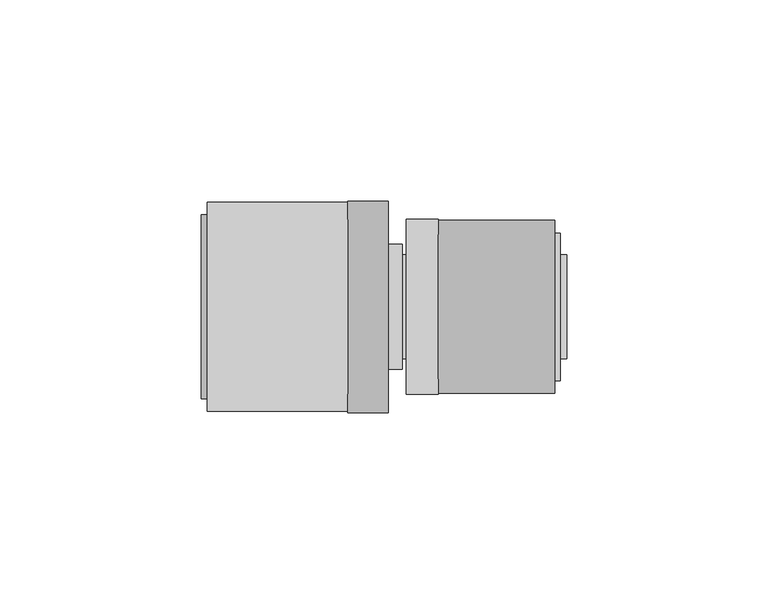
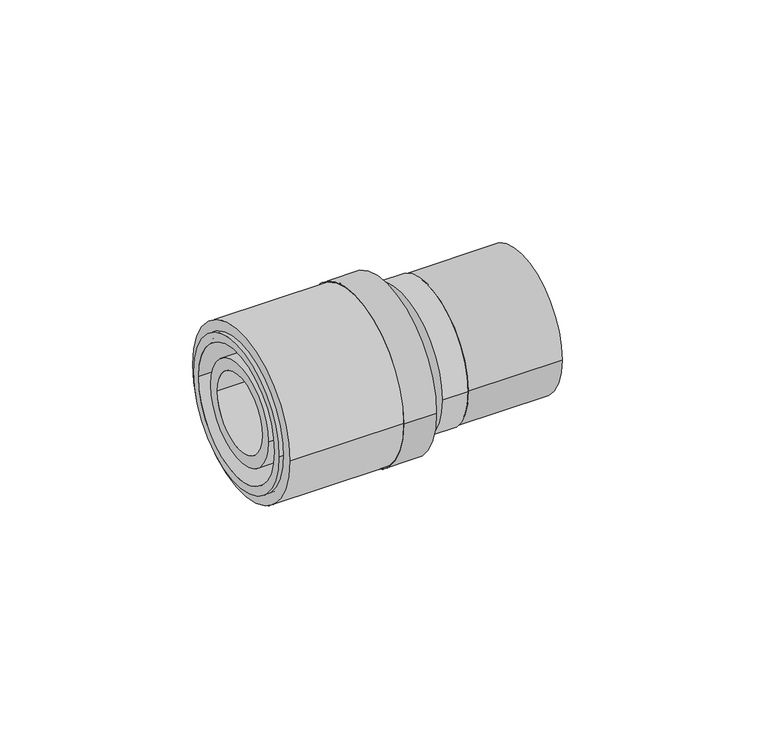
"""IFC4 building model written with IfcOpenShell, lengths in millimetres: pipe fitting geometry, FASTLOC_Coupling reduced LX : FSL C LX CZ."""

from ifc_helpers import new_model, si_unit, point, frame, origin, origin_2d, place, context, project, spatial, polyline, circle_curve, trimmed, segment, composite_curve, outline, extrude, source, transform, mapped, element, save
from ifc_brep_helpers import plane_surface, cylinder_surface, revolved_surface, advanced_brep


def pipe_fitting_14a26f43(model_context):
    return source(origin(), model_context, "Body", "SolidModel", [
        extrude(outline(composite_curve([segment(trimmed(circle_curve(origin_2d(), 21.5), [point((-21.5, 0.0))], [point((21.5, 0.0))], False, "CARTESIAN"), True, "CONTINUOUS"), segment(trimmed(circle_curve(origin_2d(), 21.5), [point((21.5, 0.0))], [point((-21.5, 0.0))], False, "CARTESIAN"), True, "CONTINUOUS")], self_intersect=False), holes=[composite_curve([segment(trimmed(circle_curve(origin_2d(), 16.85), [point((-16.85, 0.0))], [point((16.85, 0.0))], True, "CARTESIAN"), True, "CONTINUOUS"), segment(trimmed(circle_curve(origin_2d(), 16.85), [point((16.85, 0.0))], [point((-16.85, 0.0))], True, "CARTESIAN"), True, "CONTINUOUS")], self_intersect=False)]), frame((10.9, 0.0, 0.0), z_axis=(1.0, 0.0, 0.0), x_axis=(0.0, 1.0, 0.0)), (0.0, 0.0, 1.0), 29.0),
        advanced_brep(
        [(10.9, 21.8, 0.0), (10.9, -21.8, 0.0), (2.9, -21.8, 0.0), (2.9, 21.8, 0.0), (41.2, 18.35, 0.0), (41.2, -18.35, 0.0), (10.9, -18.35, 0.0), (10.9, 18.35, 0.0), (2.9, 16.2, 0.0), (2.9, -16.2, 0.0), (41.2, -16.2, 0.0), (41.2, 16.2, 0.0)],
        [
            (0, 1, circle_curve(frame((10.9, 0.0, 0.0), z_axis=(-1.0, 0.0, 0.0), x_axis=(0.0, -1.0, 0.0)), 21.8)),
            (1, 2),
            (2, 3, circle_curve(frame((2.9, 0.0, 0.0), z_axis=(1.0, 0.0, 0.0), x_axis=(0.0, -1.0, 0.0)), 21.8)),
            (3, 0),
            (4, 5, circle_curve(frame((41.2, 0.0, 0.0), z_axis=(-1.0, 0.0, 0.0), x_axis=(0.0, -1.0, 0.0)), 18.35)),
            (5, 6),
            (6, 7, circle_curve(frame((10.9, 0.0, 0.0), z_axis=(1.0, 0.0, 0.0), x_axis=(0.0, -1.0, 0.0)), 18.35)),
            (7, 4),
            (8, 9, circle_curve(frame((2.9, 0.0, 0.0), z_axis=(-1.0, 0.0, 0.0), x_axis=(0.0, -1.0, 0.0)), 16.2)),
            (9, 10),
            (10, 11, circle_curve(frame((41.2, 0.0, 0.0), z_axis=(1.0, 0.0, 0.0), x_axis=(0.0, -1.0, 0.0)), 16.2)),
            (11, 8),
            (1, 0, circle_curve(frame((10.9, 0.0, 0.0), z_axis=(-1.0, 0.0, 0.0), x_axis=(0.0, 1.0, 0.0)), 21.8)),
            (3, 2, circle_curve(frame((2.9, 0.0, 0.0), z_axis=(1.0, 0.0, 0.0), x_axis=(0.0, 1.0, 0.0)), 21.8)),
            (6, 7, circle_curve(frame((10.9, 0.0, 0.0), z_axis=(-1.0, 0.0, 0.0), x_axis=(0.0, 1.0, 0.0)), 18.35)),
            (5, 4, circle_curve(frame((41.2, 0.0, 0.0), z_axis=(-1.0, 0.0, 0.0), x_axis=(0.0, 1.0, 0.0)), 18.35)),
            (10, 11, circle_curve(frame((41.2, 0.0, 0.0), z_axis=(-1.0, 0.0, 0.0), x_axis=(0.0, 1.0, 0.0)), 16.2)),
            (9, 8, circle_curve(frame((2.9, 0.0, 0.0), z_axis=(-1.0, 0.0, 0.0), x_axis=(0.0, 1.0, 0.0)), 16.2)),
        ],
        [
            cylinder_surface(frame((2.9, 0.0, 0.0), z_axis=(1.0, 0.0, 0.0), x_axis=(0.0, -1.0, 0.0)), 21.8),
            cylinder_surface(frame((2.9, 0.0, 0.0), z_axis=(1.0, 0.0, 0.0), x_axis=(0.0, -1.0, 0.0)), 18.35),
            revolved_surface(polyline([(41.2, -16.2, 0.0), (2.9, -16.2, 0.0)]), (2.9, 0.0, 0.0), (1.0, 0.0, 0.0)),
            cylinder_surface(frame((2.9, 0.0, 0.0), z_axis=(1.0, 0.0, 0.0), x_axis=(0.0, 1.0, 0.0)), 21.8),
            plane_surface(frame((10.9, 0.0, 0.0), z_axis=(1.0, 0.0, 0.0), x_axis=(0.0, 1.0, 0.0))),
            cylinder_surface(frame((2.9, 0.0, 0.0), z_axis=(1.0, 0.0, 0.0), x_axis=(0.0, 1.0, 0.0)), 18.35),
            plane_surface(frame((41.2, 0.0, 0.0), z_axis=(1.0, 0.0, 0.0), x_axis=(0.0, 1.0, 0.0))),
            revolved_surface(polyline([(41.2, 16.2, 0.0), (2.9, 16.2, 0.0)]), (2.9, 0.0, 0.0), (1.0, 0.0, 0.0)),
            plane_surface(frame((2.9, 0.0, 0.0), z_axis=(-1.0, 0.0, 0.0), x_axis=(0.0, 1.0, 0.0))),
        ],
        [
            (0, [[1, 2, 3, 4]]),
            (1, [[5, 6, 7, 8]]),
            (2, [[9, 10, 11, 12]]),
            (3, [[13, -4, 14, -2]]),
            (4, [[-13, -1], [15, -7]]),
            (5, [[16, -8, -15, -6]]),
            (6, [[-16, -5], [17, -11]]),
            (7, [[18, -12, -17, -10]]),
            (8, [[-14, -3], [-18, -9]]),
        ],
    ),
        extrude(outline(composite_curve([segment(trimmed(circle_curve(origin_2d(), 26.0), [point((26.0, 0.0))], [point((-26.0, 0.0))], False, "CARTESIAN"), True, "CONTINUOUS"), segment(trimmed(circle_curve(origin_2d(), 26.0), [point((-26.0, 0.0))], [point((26.0, 0.0))], False, "CARTESIAN"), True, "CONTINUOUS")], self_intersect=False), holes=[composite_curve([segment(trimmed(circle_curve(origin_2d(), 21.25), [point((21.25, 0.0))], [point((-21.25, 0.0))], True, "CARTESIAN"), True, "CONTINUOUS"), segment(trimmed(circle_curve(origin_2d(), 21.25), [point((-21.25, 0.0))], [point((21.25, 0.0))], True, "CARTESIAN"), True, "CONTINUOUS")], self_intersect=False)]), frame((-46.6, 0.0, 0.0), z_axis=(1.0, 0.0, 0.0), x_axis=(0.0, 1.0, 0.0)), (0.0, 0.0, 1.0), 35.0),
        advanced_brep(
        [(-11.6, -26.3, 0.0), (-11.6, 26.3, 0.0), (-1.6, 26.3, 0.0), (-1.6, -26.3, 0.0), (-48.1, -22.9, 0.0), (-48.1, 22.9, 0.0), (-11.6, 22.9, 0.0), (-11.6, -22.9, 0.0), (-1.6, -20.2, 0.0), (-1.6, 20.2, 0.0), (-48.1, 20.2, 0.0), (-48.1, -20.2, 0.0)],
        [
            (0, 1, circle_curve(frame((-11.6, 0.0, 0.0), z_axis=(1.0, 0.0, 0.0), x_axis=(0.0, 1.0, 0.0)), 26.3)),
            (1, 2),
            (2, 3, circle_curve(frame((-1.6, 0.0, 0.0), z_axis=(-1.0, 0.0, 0.0), x_axis=(0.0, 1.0, 0.0)), 26.3)),
            (3, 0),
            (4, 5, circle_curve(frame((-48.1, 0.0, 0.0), z_axis=(1.0, 0.0, 0.0), x_axis=(0.0, 1.0, 0.0)), 22.9)),
            (5, 6),
            (6, 7, circle_curve(frame((-11.6, 0.0, 0.0), z_axis=(-1.0, 0.0, 0.0), x_axis=(0.0, 1.0, 0.0)), 22.9)),
            (7, 4),
            (8, 9, circle_curve(frame((-1.6, 0.0, 0.0), z_axis=(1.0, 0.0, 0.0), x_axis=(0.0, 1.0, 0.0)), 20.2)),
            (9, 10),
            (10, 11, circle_curve(frame((-48.1, 0.0, 0.0), z_axis=(-1.0, 0.0, 0.0), x_axis=(0.0, 1.0, 0.0)), 20.2)),
            (11, 8),
            (1, 0, circle_curve(frame((-11.6, 0.0, 0.0), z_axis=(1.0, 0.0, 0.0), x_axis=(0.0, -1.0, 0.0)), 26.3)),
            (3, 2, circle_curve(frame((-1.6, 0.0, 0.0), z_axis=(-1.0, 0.0, 0.0), x_axis=(0.0, -1.0, 0.0)), 26.3)),
            (6, 7, circle_curve(frame((-11.6, 0.0, 0.0), z_axis=(1.0, 0.0, 0.0), x_axis=(0.0, -1.0, 0.0)), 22.9)),
            (5, 4, circle_curve(frame((-48.1, 0.0, 0.0), z_axis=(1.0, 0.0, 0.0), x_axis=(0.0, -1.0, 0.0)), 22.9)),
            (10, 11, circle_curve(frame((-48.1, 0.0, 0.0), z_axis=(1.0, 0.0, 0.0), x_axis=(0.0, -1.0, 0.0)), 20.2)),
            (9, 8, circle_curve(frame((-1.6, 0.0, 0.0), z_axis=(1.0, 0.0, 0.0), x_axis=(0.0, -1.0, 0.0)), 20.2)),
        ],
        [
            cylinder_surface(frame((-1.6, 0.0, 0.0), z_axis=(-1.0, 0.0, 0.0), x_axis=(0.0, 1.0, 0.0)), 26.3),
            cylinder_surface(frame((-1.6, 0.0, 0.0), z_axis=(-1.0, 0.0, 0.0), x_axis=(0.0, 1.0, 0.0)), 22.9),
            revolved_surface(polyline([(-48.1, 20.2, 0.0), (-1.6, 20.2, 0.0)]), (-1.6, 0.0, 0.0), (-1.0, 0.0, 0.0)),
            cylinder_surface(frame((-1.6, 0.0, 0.0), z_axis=(-1.0, 0.0, 0.0), x_axis=(0.0, -1.0, 0.0)), 26.3),
            plane_surface(frame((-11.6, 0.0, 0.0), z_axis=(-1.0, 0.0, 0.0), x_axis=(0.0, -1.0, 0.0))),
            cylinder_surface(frame((-1.6, 0.0, 0.0), z_axis=(-1.0, 0.0, 0.0), x_axis=(0.0, -1.0, 0.0)), 22.9),
            plane_surface(frame((-48.1, 0.0, 0.0), z_axis=(-1.0, 0.0, 0.0), x_axis=(0.0, -1.0, 0.0))),
            revolved_surface(polyline([(-48.1, -20.2, 0.0), (-1.6, -20.2, 0.0)]), (-1.6, 0.0, 0.0), (-1.0, 0.0, 0.0)),
            plane_surface(frame((-1.6, 0.0, 0.0), z_axis=(1.0, 0.0, 0.0), x_axis=(0.0, -1.0, 0.0))),
        ],
        [
            (0, [[1, 2, 3, 4]]),
            (1, [[5, 6, 7, 8]]),
            (2, [[9, 10, 11, 12]]),
            (3, [[13, -4, 14, -2]]),
            (4, [[-13, -1], [15, -7]]),
            (5, [[16, -8, -15, -6]]),
            (6, [[-16, -5], [17, -11]]),
            (7, [[18, -12, -17, -10]]),
            (8, [[-14, -3], [-18, -9]]),
        ],
    ),
        advanced_brep(
        [(-1.5, 15.545, 0.0), (-1.5, -15.545, 0.0), (-7.9, -15.545, 0.0), (-7.9, 15.545, 0.0), (-7.9, 17.2, 0.0), (-7.9, -17.2, 0.0), (-11.6, -17.2, 0.0), (-11.6, 17.2, 0.0), (-11.6, 15.545, 0.0), (-11.6, -15.545, 0.0), (-47.1, -15.545, 0.0), (-47.1, 15.545, 0.0), (-47.1, 11.95, 0.0), (-47.1, -11.95, 0.0), (-1.5, -11.95, 0.0), (-1.5, 11.95, 0.0), (-1.5, 10.295, 0.0), (-1.5, -10.295, 0.0), (42.9, -10.295, 0.0), (42.9, 10.295, 0.0), (42.9, 12.9179189, 0.0), (42.9, -12.9179189, 0.0), (10.9, -12.9179189, 0.0), (10.9, 12.9179189, 0.0), (10.9, 14.545, 0.0), (10.9, -14.545, 0.0), (7.9, -14.545, 0.0), (7.9, 14.545, 0.0), (7.9, 12.945, 0.0), (7.9, -12.945, 0.0), (2.0, -12.945, 0.0), (2.0, 12.945, 0.0), (2.0, 15.545, 0.0), (2.0, -15.545, 0.0)],
        [
            (0, 1, circle_curve(frame((-1.5, 0.0, 0.0), z_axis=(-1.0, 0.0, 0.0), x_axis=(0.0, -1.0, 0.0)), 15.545)),
            (1, 2),
            (2, 3, circle_curve(frame((-7.9, 0.0, 0.0), z_axis=(1.0, 0.0, 0.0), x_axis=(0.0, -1.0, 0.0)), 15.545)),
            (3, 0),
            (4, 5, circle_curve(frame((-7.9, 0.0, 0.0), z_axis=(-1.0, 0.0, 0.0), x_axis=(0.0, -1.0, 0.0)), 17.2)),
            (5, 6),
            (6, 7, circle_curve(frame((-11.6, 0.0, 0.0), z_axis=(1.0, 0.0, 0.0), x_axis=(0.0, -1.0, 0.0)), 17.2)),
            (7, 4),
            (8, 9, circle_curve(frame((-11.6, 0.0, 0.0), z_axis=(-1.0, 0.0, 0.0), x_axis=(0.0, -1.0, 0.0)), 15.545)),
            (9, 10),
            (10, 11, circle_curve(frame((-47.1, 0.0, 0.0), z_axis=(1.0, 0.0, 0.0), x_axis=(0.0, -1.0, 0.0)), 15.545)),
            (11, 8),
            (12, 13, circle_curve(frame((-47.1, 0.0, 0.0), z_axis=(-1.0, 0.0, 0.0), x_axis=(0.0, -1.0, 0.0)), 11.95)),
            (13, 14),
            (14, 15, circle_curve(frame((-1.5, 0.0, 0.0), z_axis=(1.0, 0.0, 0.0), x_axis=(0.0, -1.0, 0.0)), 11.95)),
            (15, 12),
            (1, 0, circle_curve(frame((-1.5, 0.0, 0.0), z_axis=(-1.0, 0.0, 0.0), x_axis=(0.0, 1.0, 0.0)), 15.545)),
            (3, 2, circle_curve(frame((-7.9, 0.0, 0.0), z_axis=(1.0, 0.0, 0.0), x_axis=(0.0, 1.0, 0.0)), 15.545)),
            (4, 5, circle_curve(frame((-7.9, 0.0, 0.0), z_axis=(1.0, 0.0, 0.0), x_axis=(0.0, 1.0, 0.0)), 17.2)),
            (7, 6, circle_curve(frame((-11.6, 0.0, 0.0), z_axis=(1.0, 0.0, 0.0), x_axis=(0.0, 1.0, 0.0)), 17.2)),
            (8, 9, circle_curve(frame((-11.6, 0.0, 0.0), z_axis=(1.0, 0.0, 0.0), x_axis=(0.0, 1.0, 0.0)), 15.545)),
            (11, 10, circle_curve(frame((-47.1, 0.0, 0.0), z_axis=(1.0, 0.0, 0.0), x_axis=(0.0, 1.0, 0.0)), 15.545)),
            (12, 13, circle_curve(frame((-47.1, 0.0, 0.0), z_axis=(1.0, 0.0, 0.0), x_axis=(0.0, 1.0, 0.0)), 11.95)),
            (15, 14, circle_curve(frame((-1.5, 0.0, 0.0), z_axis=(1.0, 0.0, 0.0), x_axis=(0.0, 1.0, 0.0)), 11.95)),
            (16, 17, circle_curve(frame((-1.5, 0.0, 0.0), z_axis=(-1.0, 0.0, 0.0), x_axis=(0.0, -1.0, 0.0)), 10.295)),
            (17, 18),
            (18, 19, circle_curve(frame((42.9, 0.0, 0.0), z_axis=(1.0, 0.0, 0.0), x_axis=(0.0, -1.0, 0.0)), 10.295)),
            (19, 16),
            (20, 21, circle_curve(frame((42.9, 0.0, 0.0), z_axis=(-1.0, 0.0, 0.0), x_axis=(0.0, -1.0, 0.0)), 12.9179189)),
            (21, 22),
            (22, 23, circle_curve(frame((10.9, 0.0, 0.0), z_axis=(1.0, 0.0, 0.0), x_axis=(0.0, -1.0, 0.0)), 12.9179189)),
            (23, 20),
            (24, 25, circle_curve(frame((10.9, 0.0, 0.0), z_axis=(-1.0, 0.0, 0.0), x_axis=(0.0, -1.0, 0.0)), 14.545)),
            (25, 26),
            (26, 27, circle_curve(frame((7.9, 0.0, 0.0), z_axis=(1.0, 0.0, 0.0), x_axis=(0.0, -1.0, 0.0)), 14.545)),
            (27, 24),
            (28, 29, circle_curve(frame((7.9, 0.0, 0.0), z_axis=(-1.0, 0.0, 0.0), x_axis=(0.0, -1.0, 0.0)), 12.945)),
            (29, 30),
            (30, 31, circle_curve(frame((2.0, 0.0, 0.0), z_axis=(1.0, 0.0, 0.0), x_axis=(0.0, -1.0, 0.0)), 12.945)),
            (31, 28),
            (32, 33, circle_curve(frame((2.0, 0.0, 0.0), z_axis=(-1.0, 0.0, 0.0), x_axis=(0.0, -1.0, 0.0)), 15.545)),
            (33, 1),
            (0, 32),
            (16, 17, circle_curve(frame((-1.5, 0.0, 0.0), z_axis=(1.0, 0.0, 0.0), x_axis=(0.0, 1.0, 0.0)), 10.295)),
            (19, 18, circle_curve(frame((42.9, 0.0, 0.0), z_axis=(1.0, 0.0, 0.0), x_axis=(0.0, 1.0, 0.0)), 10.295)),
            (20, 21, circle_curve(frame((42.9, 0.0, 0.0), z_axis=(1.0, 0.0, 0.0), x_axis=(0.0, 1.0, 0.0)), 12.9179189)),
            (23, 22, circle_curve(frame((10.9, 0.0, 0.0), z_axis=(1.0, 0.0, 0.0), x_axis=(0.0, 1.0, 0.0)), 12.9179189)),
            (24, 25, circle_curve(frame((10.9, 0.0, 0.0), z_axis=(1.0, 0.0, 0.0), x_axis=(0.0, 1.0, 0.0)), 14.545)),
            (27, 26, circle_curve(frame((7.9, 0.0, 0.0), z_axis=(1.0, 0.0, 0.0), x_axis=(0.0, 1.0, 0.0)), 14.545)),
            (28, 29, circle_curve(frame((7.9, 0.0, 0.0), z_axis=(1.0, 0.0, 0.0), x_axis=(0.0, 1.0, 0.0)), 12.945)),
            (31, 30, circle_curve(frame((2.0, 0.0, 0.0), z_axis=(1.0, 0.0, 0.0), x_axis=(0.0, 1.0, 0.0)), 12.945)),
            (32, 33, circle_curve(frame((2.0, 0.0, 0.0), z_axis=(1.0, 0.0, 0.0), x_axis=(0.0, 1.0, 0.0)), 15.545)),
        ],
        [
            cylinder_surface(frame((0.0, 0.0, 0.0), z_axis=(1.0, 0.0, 0.0), x_axis=(0.0, -1.0, 0.0)), 15.545),
            cylinder_surface(frame((0.0, 0.0, 0.0), z_axis=(1.0, 0.0, 0.0), x_axis=(0.0, -1.0, 0.0)), 17.2),
            revolved_surface(polyline([(-1.5, -11.95, 0.0), (-47.1, -11.95, 0.0)]), (0.0, 0.0, 0.0), (1.0, 0.0, 0.0)),
            cylinder_surface(frame((0.0, 0.0, 0.0), z_axis=(1.0, 0.0, 0.0), x_axis=(0.0, 1.0, 0.0)), 15.545),
            plane_surface(frame((-7.9, 0.0, 0.0), z_axis=(1.0, 0.0, 0.0), x_axis=(0.0, 1.0, 0.0))),
            cylinder_surface(frame((0.0, 0.0, 0.0), z_axis=(1.0, 0.0, 0.0), x_axis=(0.0, 1.0, 0.0)), 17.2),
            plane_surface(frame((-11.6, 0.0, 0.0), z_axis=(-1.0, 0.0, 0.0), x_axis=(0.0, 1.0, 0.0))),
            plane_surface(frame((-47.1, 0.0, 0.0), z_axis=(-1.0, 0.0, 0.0), x_axis=(0.0, 1.0, 0.0))),
            revolved_surface(polyline([(-1.5, 11.95, 0.0), (-47.1, 11.95, 0.0)]), (0.0, 0.0, 0.0), (1.0, 0.0, 0.0)),
            revolved_surface(polyline([(42.9, -10.295, 0.0), (-1.5, -10.295, 0.0)]), (0.0, 0.0, 0.0), (1.0, 0.0, 0.0)),
            cylinder_surface(frame((0.0, 0.0, 0.0), z_axis=(1.0, 0.0, 0.0), x_axis=(0.0, -1.0, 0.0)), 12.9179189),
            cylinder_surface(frame((0.0, 0.0, 0.0), z_axis=(1.0, 0.0, 0.0), x_axis=(0.0, -1.0, 0.0)), 14.545),
            cylinder_surface(frame((0.0, 0.0, 0.0), z_axis=(1.0, 0.0, 0.0), x_axis=(0.0, -1.0, 0.0)), 12.945),
            plane_surface(frame((-1.5, 0.0, 0.0), z_axis=(-1.0, 0.0, 0.0), x_axis=(0.0, 1.0, 0.0))),
            revolved_surface(polyline([(42.9, 10.295, 0.0), (-1.5, 10.295, 0.0)]), (0.0, 0.0, 0.0), (1.0, 0.0, 0.0)),
            plane_surface(frame((42.9, 0.0, 0.0), z_axis=(1.0, 0.0, 0.0), x_axis=(0.0, 1.0, 0.0))),
            cylinder_surface(frame((0.0, 0.0, 0.0), z_axis=(1.0, 0.0, 0.0), x_axis=(0.0, 1.0, 0.0)), 12.9179189),
            plane_surface(frame((10.9, 0.0, 0.0), z_axis=(1.0, 0.0, 0.0), x_axis=(0.0, 1.0, 0.0))),
            cylinder_surface(frame((0.0, 0.0, 0.0), z_axis=(1.0, 0.0, 0.0), x_axis=(0.0, 1.0, 0.0)), 14.545),
            plane_surface(frame((7.9, 0.0, 0.0), z_axis=(-1.0, 0.0, 0.0), x_axis=(0.0, 1.0, 0.0))),
            cylinder_surface(frame((0.0, 0.0, 0.0), z_axis=(1.0, 0.0, 0.0), x_axis=(0.0, 1.0, 0.0)), 12.945),
            plane_surface(frame((2.0, 0.0, 0.0), z_axis=(1.0, 0.0, 0.0), x_axis=(0.0, 1.0, 0.0))),
        ],
        [
            (0, [[1, 2, 3, 4]]),
            (1, [[5, 6, 7, 8]]),
            (0, [[9, 10, 11, 12]]),
            (2, [[13, 14, 15, 16]]),
            (3, [[17, -4, 18, -2]]),
            (4, [[19, -5], [-18, -3]]),
            (5, [[-19, -8, 20, -6]]),
            (6, [[-20, -7], [21, -9]]),
            (3, [[-21, -12, 22, -10]]),
            (7, [[-22, -11], [23, -13]]),
            (8, [[-23, -16, 24, -14]]),
            (9, [[25, 26, 27, 28]]),
            (10, [[29, 30, 31, 32]]),
            (11, [[33, 34, 35, 36]]),
            (12, [[37, 38, 39, 40]]),
            (0, [[41, 42, -1, 43]]),
            (13, [[-24, -15], [44, -25]]),
            (14, [[-44, -28, 45, -26]]),
            (15, [[46, -29], [-45, -27]]),
            (16, [[-46, -32, 47, -30]]),
            (17, [[48, -33], [-47, -31]]),
            (18, [[-48, -36, 49, -34]]),
            (19, [[-49, -35], [50, -37]]),
            (20, [[-50, -40, 51, -38]]),
            (21, [[52, -41], [-51, -39]]),
            (3, [[-52, -43, -17, -42]]),
        ],
    ),
    ])


if __name__ == "__main__":
    model = new_model("IFC4")
    model_context = context("Model", 3, world=origin())
    ifc_project = project(units=[si_unit("LENGTHUNIT", "METRE", prefix="MILLI")], contexts=[model_context])
    site = spatial("IfcSite", under=ifc_project)
    building = spatial("IfcBuilding", under=site)
    placement = place(None, origin())
    pipe_fitting_shape = pipe_fitting_14a26f43(model_context)
    element("IfcPipeFitting", 1, ObjectType="FASTLOC_Coupling reduced LX : FSL C LX CZ", at=placement, inside=building, context=model_context, shape_type="MappedRepresentation", body=[
        mapped(pipe_fitting_shape, transform((0.0, 0.0, 0.0), x_axis=(1.0, 0.0, 0.0), y_axis=(0.0, 1.0, 0.0), z_axis=(0.0, 0.0, 1.0))),
    ])
    save(model, "model.ifc")
